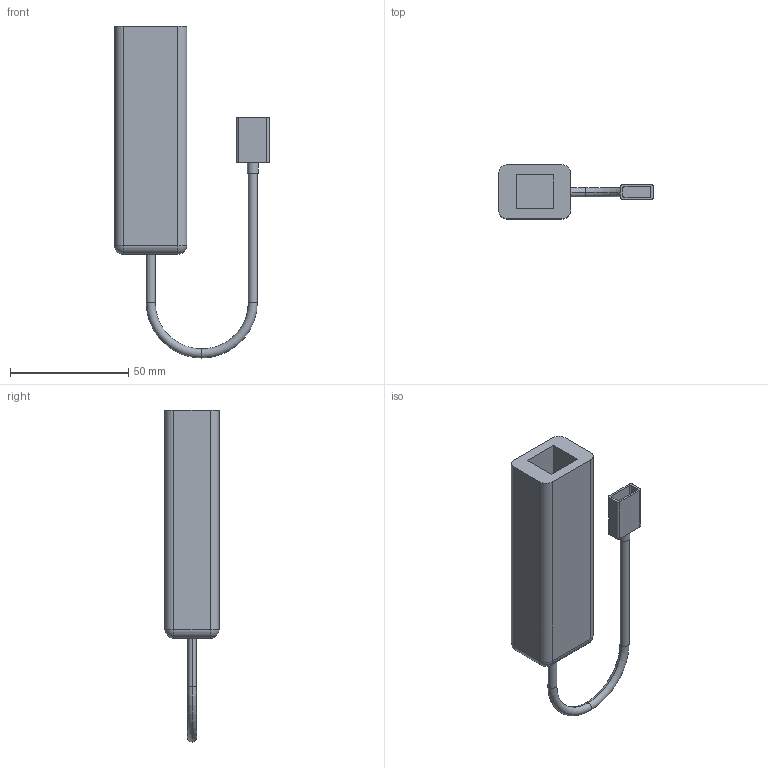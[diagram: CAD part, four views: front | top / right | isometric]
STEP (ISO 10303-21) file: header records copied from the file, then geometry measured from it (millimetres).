
FILE_DESCRIPTION (( 'STEP AP214' ), '1' );
FILE_NAME ('Shell.step', '2025-12-23T15:58:33', ( '' ), ( '' ), 'SwSTEP 2.0', 'SolidWorks 2026', '' );
FILE_SCHEMA (( 'AUTOMOTIVE_DESIGN' ));
Length unit declared in the file: inch
Products named in the file (1): Shell
Bounding box: 65.41 x 22.86 x 140.34 mm (x, y, z)
Volume: 57465.9 mm3; surface area: 17791.4 mm2
Topology: 1 solids, 1 shells, 95 faces, 232 edges, 146 vertices
Faces by surface type: plane 53, cylinder 34, torus 4, sphere 4
Entity records: 2779 total; most frequent: DIRECTION 494, CARTESIAN_POINT 470, ORIENTED_EDGE 456, EDGE_CURVE 228, AXIS2_PLACEMENT_3D 170, VECTOR 154, LINE 154, VERTEX_POINT 146
